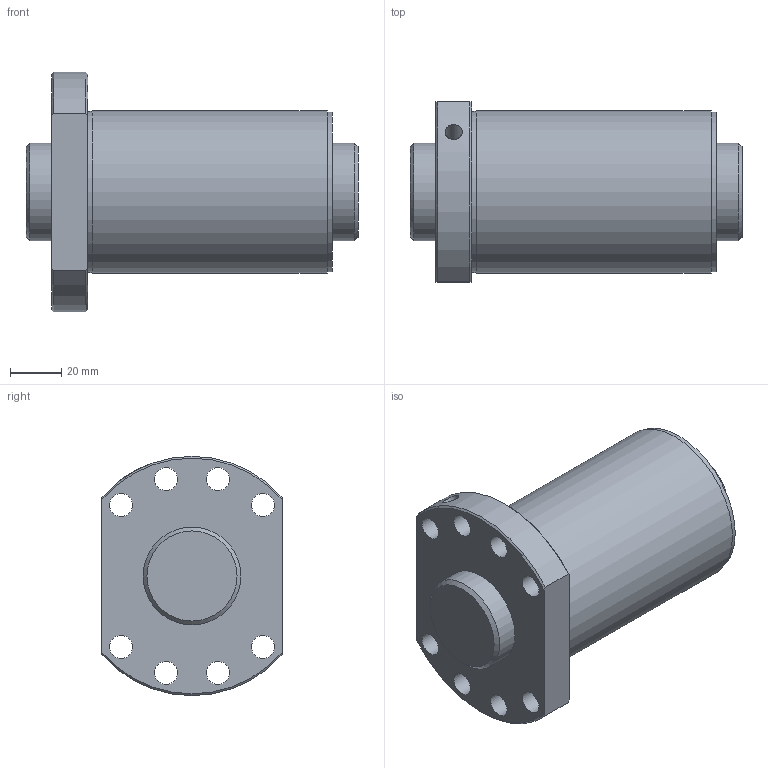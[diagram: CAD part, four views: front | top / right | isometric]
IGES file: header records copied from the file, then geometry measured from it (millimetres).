
Start section: Data from Parasolid IGES Translator 26.0.171, Copyright(c) 2006 Siemens PLM Software. All Rights Reserved.
Global section: file name: SDA3825V-4G0+129LC0(0G000).igs; native system: By Siemens PLM Incorporated; preprocessor: XPlus GENERIC/IGES 26.0.171; author: Noname; organization: Noname; date: 20240528.114142; units: millimetre
Bounding box: 129 x 70 x 93 mm (x, y, z)
Surface area: 65164.1 mm2 (no closed solid volume)
Topology: 0 solids, 0 shells, 33 faces, 158 edges, 133 vertices
Faces by surface type: revolution 24, extrusion 9
